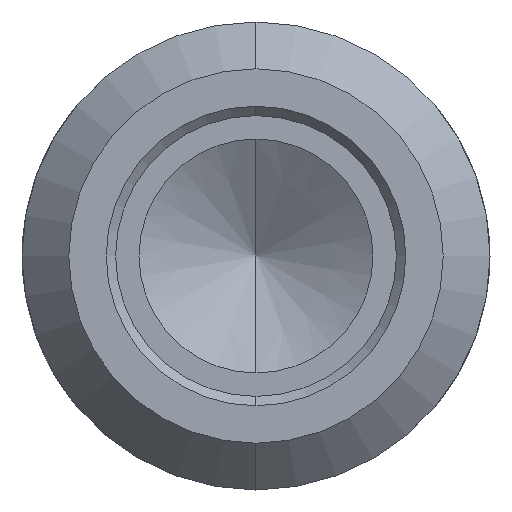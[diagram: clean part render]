
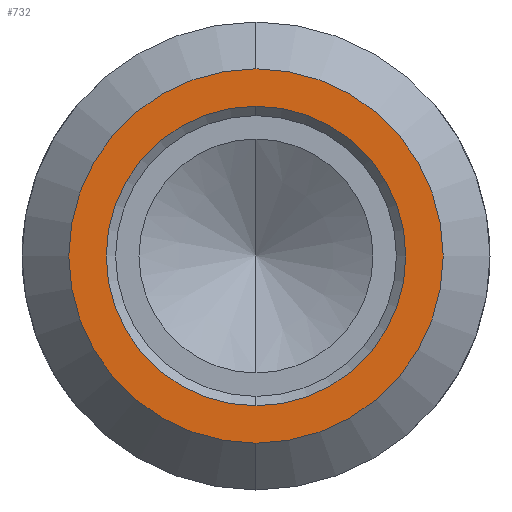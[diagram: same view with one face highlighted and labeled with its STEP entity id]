
A CAD part, left-side view. The second image highlights one B-rep face of the part: STEP entity #732.
In plain terms, the highlighted planar face has unit normal (-1, 0, 0).
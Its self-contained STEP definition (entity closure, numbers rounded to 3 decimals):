
#19 = DIRECTION ( 'NONE',  ( 1., 0., 0. ) ) ;
#29 = AXIS2_PLACEMENT_3D ( 'NONE', #143, #344, #1176 ) ;
#44 = EDGE_CURVE ( 'NONE', #403, #229, #790, .T. ) ;
#111 = CIRCLE ( 'NONE', #262, 3.2 ) ;
#120 = FACE_BOUND ( 'NONE', #1197, .T. ) ;
#143 = CARTESIAN_POINT ( 'NONE',  ( 0., 0., 0. ) ) ;
#229 = VERTEX_POINT ( 'NONE', #675 ) ;
#251 = ORIENTED_EDGE ( 'NONE', *, *, #583, .T. ) ;
#262 = AXIS2_PLACEMENT_3D ( 'NONE', #498, #602, #1317 ) ;
#317 = DIRECTION ( 'NONE',  ( 0., 0., -1. ) ) ;
#344 = DIRECTION ( 'NONE',  ( -1., 0., 0. ) ) ;
#378 = VERTEX_POINT ( 'NONE', #1194 ) ;
#403 = VERTEX_POINT ( 'NONE', #1083 ) ;
#410 = CARTESIAN_POINT ( 'NONE',  ( 0., 0., 0. ) ) ;
#425 = ORIENTED_EDGE ( 'NONE', *, *, #1138, .T. ) ;
#427 = DIRECTION ( 'NONE',  ( 1., 0., 0. ) ) ;
#498 = CARTESIAN_POINT ( 'NONE',  ( 0., 0., 0. ) ) ;
#581 = CARTESIAN_POINT ( 'NONE',  ( 0., 0., 0. ) ) ;
#583 = EDGE_CURVE ( 'NONE', #378, #845, #705, .T. ) ;
#599 = DIRECTION ( 'NONE',  ( -1., 0., 0. ) ) ;
#602 = DIRECTION ( 'NONE',  ( 1., 0., 0. ) ) ;
#614 = ORIENTED_EDGE ( 'NONE', *, *, #1299, .T. ) ;
#637 = CARTESIAN_POINT ( 'NONE',  ( 0., 5., 0. ) ) ;
#675 = CARTESIAN_POINT ( 'NONE',  ( 0., 0., 4. ) ) ;
#690 = AXIS2_PLACEMENT_3D ( 'NONE', #637, #19, #747 ) ;
#705 = CIRCLE ( 'NONE', #1129, 3.2 ) ;
#732 = ADVANCED_FACE ( 'NONE', ( #120, #820 ), #1252, .F. ) ;
#747 = DIRECTION ( 'NONE',  ( 0., 0., -1. ) ) ;
#790 = CIRCLE ( 'NONE', #29, 4. ) ;
#820 = FACE_OUTER_BOUND ( 'NONE', #1148, .T. ) ;
#845 = VERTEX_POINT ( 'NONE', #970 ) ;
#970 = CARTESIAN_POINT ( 'NONE',  ( 0., 0., 3.2 ) ) ;
#1083 = CARTESIAN_POINT ( 'NONE',  ( 0., 0., -4. ) ) ;
#1129 = AXIS2_PLACEMENT_3D ( 'NONE', #410, #427, #317 ) ;
#1138 = EDGE_CURVE ( 'NONE', #229, #403, #1283, .T. ) ;
#1141 = AXIS2_PLACEMENT_3D ( 'NONE', #581, #599, #1310 ) ;
#1148 = EDGE_LOOP ( 'NONE', ( #1270, #425 ) ) ;
#1176 = DIRECTION ( 'NONE',  ( 0., 0., -1. ) ) ;
#1194 = CARTESIAN_POINT ( 'NONE',  ( 0., 0., -3.2 ) ) ;
#1197 = EDGE_LOOP ( 'NONE', ( #614, #251 ) ) ;
#1252 = PLANE ( 'NONE',  #690 ) ;
#1270 = ORIENTED_EDGE ( 'NONE', *, *, #44, .T. ) ;
#1283 = CIRCLE ( 'NONE', #1141, 4. ) ;
#1299 = EDGE_CURVE ( 'NONE', #845, #378, #111, .T. ) ;
#1310 = DIRECTION ( 'NONE',  ( 0., 0., -1. ) ) ;
#1317 = DIRECTION ( 'NONE',  ( 0., 0., -1. ) ) ;
